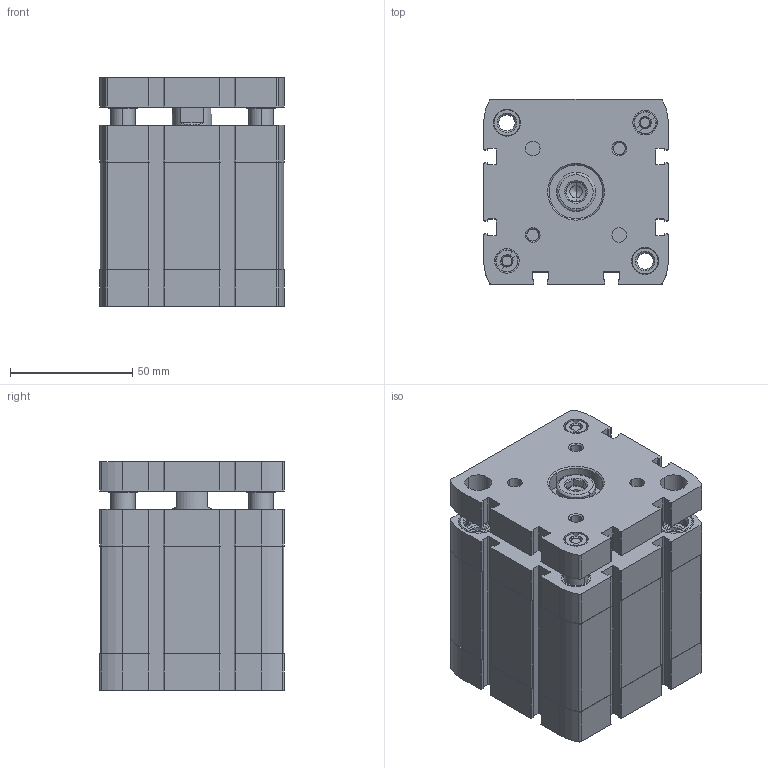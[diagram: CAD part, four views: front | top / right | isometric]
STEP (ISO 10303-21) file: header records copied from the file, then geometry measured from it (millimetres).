
FILE_DESCRIPTION (( 'STEP AP203' ), '1' );
FILE_NAME ('CCNG63-25.STEP', '2017-04-20T14:13:49', ( '' ), ( '' ), 'SwSTEP 2.0', 'SolidWorks 2016', '' );
FILE_SCHEMA (( 'CONFIG_CONTROL_DESIGN' ));
Length unit declared in the file: millimetre
Products named in the file (3): CCNG-63-25---(Z); CCNG-63-25----(KS); CCNG63-25
Assembly tree (2 placements, depth 2):
  CCNG63-25
    CCNG-63-25---(Z)
    CCNG-63-25----(KS)
Bounding box: 75.5 x 75.5 x 93.5 mm (x, y, z)
Volume: 376755.5 mm3; surface area: 97924.6 mm2
Topology: 2 solids, 4 shells, 714 faces, 1924 edges, 1261 vertices
Faces by surface type: plane 358, cylinder 278, cone 72, bspline 6
Entity records: 23131 total; most frequent: CARTESIAN_POINT 4438, DIRECTION 3960, ORIENTED_EDGE 3844, EDGE_CURVE 1922, AXIS2_PLACEMENT_3D 1459, VERTEX_POINT 1261, VECTOR 1042, LINE 1042
